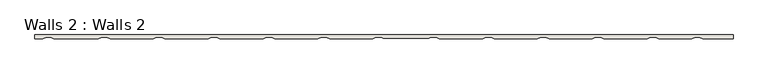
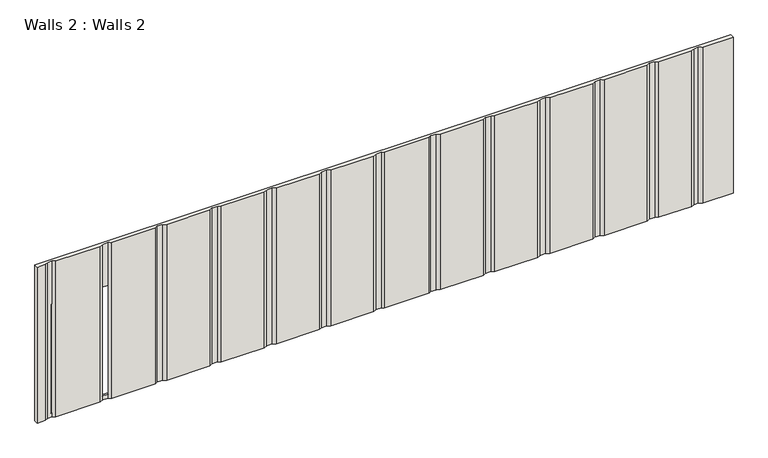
"""IFC4 building model written with IfcOpenShell, lengths in millimetres: wall geometry, Walls 2 : Walls 2."""

from ifc_helpers import new_model, si_unit, origin, place, context, project, spatial, faceted_brep, source, transform, mapped, element, save


def walls_2_walls_2_6d3ed5f8(model_context):
    return source(origin(), model_context, "Body", "Brep", [
        faceted_brep([(19063.5164082, 1614.4370976, 3560.6552161), (5449.3164082, 1614.4370976, 3560.6552161), (5449.3164082, 1536.9370976, 3560.6552161), (5605.2596593, 1536.9370976, 3560.6552161), (5673.5985761, 1573.1165241, 3560.6552161), (5754.0803271, 1573.1165241, 3560.6552161), (5815.3605819, 1540.6740315, 3560.6552161), (6687.4337098, 1540.6740315, 3560.6552161), (6748.3750588, 1572.9370986, 3560.6552161), (6853.3750683, 1572.9370986, 3560.6552161), (6914.3164082, 1540.6740315, 3560.6552161), (7756.8183043, 1540.6740315, 3560.6552161), (7817.7596533, 1572.9370986, 3560.6552161), (7922.7596628, 1572.9370986, 3560.6552161), (7983.7010027, 1540.6740315, 3560.6552161), (8827.4337098, 1540.6740315, 3560.6552161), (8888.3750588, 1572.9370986, 3560.6552161), (8993.3750683, 1572.9370986, 3560.6552161), (9054.3164082, 1540.6740315, 3560.6552161), (9897.4337098, 1540.6740315, 3560.6552161), (9958.3750588, 1572.9370986, 3560.6552161), (10063.3750683, 1572.9370986, 3560.6552161), (10124.3164082, 1540.6740315, 3560.6552161), (10967.4337098, 1540.6740315, 3560.6552161), (11028.3750588, 1572.9370986, 3560.6552161), (11133.3750683, 1572.9370986, 3560.6552161), (11194.3164082, 1540.6740315, 3560.6552161), (12037.4337098, 1540.6740315, 3560.6552161), (12098.3750588, 1572.9370986, 3560.6552161), (12203.3750683, 1572.9370986, 3560.6552161), (12243.389439, 1551.7530168, 3560.6552161), (13128.3606791, 1551.7530168, 3560.6552161), (13168.3750498, 1572.9370986, 3560.6552161), (13273.3750593, 1572.9370986, 3560.6552161), (13334.3164082, 1540.6740315, 3560.6552161), (14177.4337098, 1540.6740315, 3560.6552161), (14238.3750498, 1572.9370986, 3560.6552161), (14343.3750593, 1572.9370986, 3560.6552161), (14404.3164082, 1540.6740315, 3560.6552161), (15247.4337098, 1540.6740315, 3560.6552161), (15308.3750498, 1572.9370986, 3560.6552161), (15413.3750593, 1572.9370986, 3560.6552161), (15474.3164082, 1540.6740315, 3560.6552161), (16318.0491154, 1540.6740315, 3560.6552161), (16378.9904553, 1572.9370986, 3560.6552161), (16483.9904648, 1572.9370986, 3560.6552161), (16544.9318138, 1540.6740315, 3560.6552161), (17387.4337098, 1540.6740315, 3560.6552161), (17448.3750498, 1572.9370986, 3560.6552161), (17553.3750593, 1572.9370986, 3560.6552161), (17614.3164082, 1540.6740315, 3560.6552161), (18259.5068378, 1540.6740315, 3560.6552161), (18320.7870926, 1573.1165241, 3560.6552161), (18401.2688436, 1573.1165241, 3560.6552161), (18469.6077604, 1536.9370976, 3560.6552161), (19063.5164082, 1536.9370976, 3560.6552161), (5449.3164082, 1614.4370976, 336.5252864), (19063.5164082, 1614.4370976, 336.5252864), (19063.5164082, 1536.9370976, 336.5252864), (18469.6077604, 1536.9370976, 336.5252864), (18401.2688436, 1573.1165241, 336.5252864), (18320.7870926, 1573.1165241, 336.5252864), (18259.5068378, 1540.6740315, 336.5252864), (17614.3164082, 1540.6740315, 336.5252864), (17553.3750593, 1572.9370986, 336.5252864), (17448.3750498, 1572.9370986, 336.5252864), (17387.4337098, 1540.6740315, 336.5252864), (16544.9318138, 1540.6740315, 336.5252864), (16483.9904648, 1572.9370986, 336.5252864), (16378.9904553, 1572.9370986, 336.5252864), (16318.0491154, 1540.6740315, 336.5252864), (15474.3164082, 1540.6740315, 336.5252864), (15413.3750593, 1572.9370986, 336.5252864), (15308.3750498, 1572.9370986, 336.5252864), (15247.4337098, 1540.6740315, 336.5252864), (14404.3164082, 1540.6740315, 336.5252864), (14343.3750593, 1572.9370986, 336.5252864), (14238.3750498, 1572.9370986, 336.5252864), (14177.4337098, 1540.6740315, 336.5252864), (13334.3164082, 1540.6740315, 336.5252864), (13273.3750593, 1572.9370986, 336.5252864), (13168.3750498, 1572.9370986, 336.5252864), (13128.3606791, 1551.7530168, 336.5252864), (12243.389439, 1551.7530168, 336.5252864), (12203.3750683, 1572.9370986, 336.5252864), (12098.3750588, 1572.9370986, 336.5252864), (12037.4337098, 1540.6740315, 336.5252864), (11194.3164082, 1540.6740315, 336.5252864), (11133.3750683, 1572.9370986, 336.5252864), (11028.3750588, 1572.9370986, 336.5252864), (10967.4337098, 1540.6740315, 336.5252864), (10124.3164082, 1540.6740315, 336.5252864), (10063.3750683, 1572.9370986, 336.5252864), (9958.3750588, 1572.9370986, 336.5252864), (9897.4337098, 1540.6740315, 336.5252864), (9054.3164082, 1540.6740315, 336.5252864), (8993.3750683, 1572.9370986, 336.5252864), (8888.3750588, 1572.9370986, 336.5252864), (8827.4337098, 1540.6740315, 336.5252864), (7983.7010027, 1540.6740315, 336.5252864), (7922.7596628, 1572.9370986, 336.5252864), (7817.7596533, 1572.9370986, 336.5252864), (7756.8183043, 1540.6740315, 336.5252864), (6914.3164082, 1540.6740315, 336.5252864), (6853.3750683, 1572.9370986, 336.5252864), (6748.3750588, 1572.9370986, 336.5252864), (6687.4337098, 1540.6740315, 336.5252864), (5815.3605819, 1540.6740315, 336.5252864), (5754.0803271, 1573.1165241, 336.5252864), (5673.5985761, 1573.1165241, 336.5252864), (5605.2596593, 1536.9370976, 336.5252864), (5449.3164082, 1536.9370976, 336.5252864), (5730.5664082, 1614.4370976, 2674.4127429), (5730.5664082, 1614.4370976, 420.4127429), (6905.5664082, 1614.4370976, 420.4127429), (6905.5664082, 1614.4370976, 2674.4127429), (5754.0803271, 1573.1165241, 420.4127429), (5730.5664082, 1573.1165241, 420.4127429), (5730.5664082, 1573.1165241, 2674.4127429), (5754.0803271, 1573.1165241, 2674.4127429), (5757.5547969, 1571.2770986, 2674.4127429), (5757.5547969, 1571.2770986, 420.4127429), (6748.3750588, 1572.9370986, 420.4127429), (6745.2395034, 1571.2770986, 420.4127429), (6745.2395034, 1571.2770986, 2674.4127429), (6748.3750588, 1572.9370986, 2674.4127429), (6853.3750683, 1572.9370986, 2674.4127429), (6853.3750683, 1572.9370986, 420.4127429), (6856.5106233, 1571.2770986, 2674.4127429), (6856.5106233, 1571.2770986, 420.4127429), (6905.5664082, 1571.2770986, 2674.4127429), (6905.5664082, 1571.2770986, 420.4127429)], [[[0, 1, 2, 3, 4, 5, 6, 7, 8, 9, 10, 11, 12, 13, 14, 15, 16, 17, 18, 19, 20, 21, 22, 23, 24, 25, 26, 27, 28, 29, 30, 31, 32, 33, 34, 35, 36, 37, 38, 39, 40, 41, 42, 43, 44, 45, 46, 47, 48, 49, 50, 51, 52, 53, 54, 55]], [[56, 57, 58, 59, 60, 61, 62, 63, 64, 65, 66, 67, 68, 69, 70, 71, 72, 73, 74, 75, 76, 77, 78, 79, 80, 81, 82, 83, 84, 85, 86, 87, 88, 89, 90, 91, 92, 93, 94, 95, 96, 97, 98, 99, 100, 101, 102, 103, 104, 105, 106, 107, 108, 109, 110, 111]], [[57, 56, 1, 0], [112, 113, 114, 115]], [[56, 111, 2, 1]], [[0, 55, 58, 57]], [[4, 3, 110, 109]], [[5, 4, 109, 108, 116, 117, 118, 119]], [[6, 5, 119, 120, 121, 116, 108, 107]], [[7, 6, 107, 106]], [[8, 7, 106, 105, 122, 123, 124, 125]], [[9, 8, 125, 126]], [[105, 104, 127, 122]], [[10, 9, 126, 128, 129, 127, 104, 103]], [[3, 2, 111, 110]], [[11, 10, 103, 102]], [[12, 11, 102, 101]], [[13, 12, 101, 100]], [[14, 13, 100, 99]], [[15, 14, 99, 98]], [[16, 15, 98, 97]], [[17, 16, 97, 96]], [[18, 17, 96, 95]], [[19, 18, 95, 94]], [[20, 19, 94, 93]], [[21, 20, 93, 92]], [[22, 21, 92, 91]], [[23, 22, 91, 90]], [[28, 27, 86, 85]], [[29, 28, 85, 84]], [[30, 29, 84, 83]], [[35, 34, 79, 78]], [[36, 35, 78, 77]], [[37, 36, 77, 76]], [[38, 37, 76, 75]], [[39, 38, 75, 74]], [[40, 39, 74, 73]], [[41, 40, 73, 72]], [[42, 41, 72, 71]], [[43, 42, 71, 70]], [[44, 43, 70, 69]], [[45, 44, 69, 68]], [[46, 45, 68, 67]], [[47, 46, 67, 66]], [[48, 47, 66, 65]], [[49, 48, 65, 64]], [[50, 49, 64, 63]], [[51, 50, 63, 62]], [[52, 51, 62, 61]], [[53, 52, 61, 60]], [[54, 53, 60, 59]], [[55, 54, 59, 58]], [[24, 23, 90, 89]], [[25, 24, 89, 88]], [[26, 25, 88, 87]], [[27, 26, 87, 86]], [[31, 30, 83, 82]], [[32, 31, 82, 81]], [[33, 32, 81, 80]], [[34, 33, 80, 79]], [[130, 131, 129, 128]], [[120, 124, 123, 121]], [[117, 113, 112, 118]], [[124, 120, 119, 118, 112, 115, 130, 128, 126, 125]], [[131, 130, 115, 114]], [[121, 123, 122, 127, 129, 131, 114, 113, 117, 116]]]),
    ])


if __name__ == "__main__":
    model = new_model("IFC4")
    model_context = context("Model", 3, world=origin())
    ifc_project = project(units=[si_unit("LENGTHUNIT", "METRE", prefix="MILLI")], contexts=[model_context])
    site = spatial("IfcSite", under=ifc_project)
    building = spatial("IfcBuilding", under=site)
    placement = place(None, origin())
    walls_2_walls_2_shape = walls_2_walls_2_6d3ed5f8(model_context)
    element("IfcWall", 1, ObjectType="Walls 2 : Walls 2", at=placement, inside=building, context=model_context, shape_type="MappedRepresentation", body=[
        mapped(walls_2_walls_2_shape, transform((0.0, 0.0, 0.0), x_axis=(1.0, 0.0, 0.0), y_axis=(0.0, 1.0, 0.0), z_axis=(0.0, 0.0, 1.0))),
    ])
    save(model, "model.ifc")
